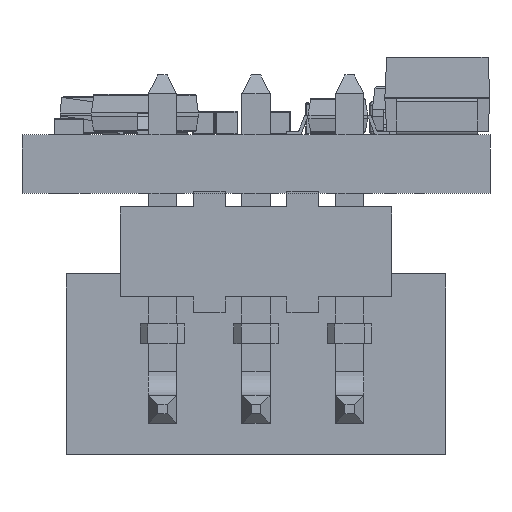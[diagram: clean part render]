
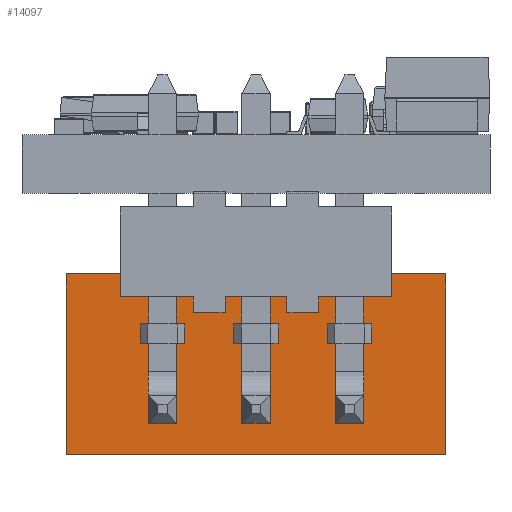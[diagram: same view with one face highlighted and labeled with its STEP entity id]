
A CAD part, front view. The second image highlights one B-rep face of the part: STEP entity #14097.
In plain terms, the highlighted planar face has unit normal (0, -1, 0) as drawn and (0, 0, -1) by its records, which use the part's own axes.
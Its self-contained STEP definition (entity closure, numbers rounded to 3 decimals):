
#13999 = VERTEX_POINT('',#14000);
#14000 = CARTESIAN_POINT('',(-2.608,-1.625,3.215));
#14008 = EDGE_CURVE('',#13999,#14009,#14011,.T.);
#14009 = VERTEX_POINT('',#14010);
#14010 = CARTESIAN_POINT('',(-2.608,3.275,3.215));
#14011 = LINE('',#14012,#14013);
#14012 = CARTESIAN_POINT('',(-2.608,-1.625,3.215));
#14013 = VECTOR('',#14014,1.);
#14014 = DIRECTION('',(0.,1.,0.));
#14047 = VERTEX_POINT('',#14048);
#14048 = CARTESIAN_POINT('',(7.688,-1.625,3.215));
#14056 = EDGE_CURVE('',#13999,#14047,#14057,.T.);
#14057 = LINE('',#14058,#14059);
#14058 = CARTESIAN_POINT('',(-2.608,-1.625,3.215));
#14059 = VECTOR('',#14060,1.);
#14060 = DIRECTION('',(1.,0.,0.));
#14097 = ADVANCED_FACE('',(#14098),#14116,.F.);
#14098 = FACE_BOUND('',#14099,.F.);
#14099 = EDGE_LOOP('',(#14100,#14101,#14102,#14110));
#14100 = ORIENTED_EDGE('',*,*,#14008,.F.);
#14101 = ORIENTED_EDGE('',*,*,#14056,.T.);
#14102 = ORIENTED_EDGE('',*,*,#14103,.T.);
#14103 = EDGE_CURVE('',#14047,#14104,#14106,.T.);
#14104 = VERTEX_POINT('',#14105);
#14105 = CARTESIAN_POINT('',(7.688,3.275,3.215));
#14106 = LINE('',#14107,#14108);
#14107 = CARTESIAN_POINT('',(7.688,-1.625,3.215));
#14108 = VECTOR('',#14109,1.);
#14109 = DIRECTION('',(0.,1.,0.));
#14110 = ORIENTED_EDGE('',*,*,#14111,.F.);
#14111 = EDGE_CURVE('',#14009,#14104,#14112,.T.);
#14112 = LINE('',#14113,#14114);
#14113 = CARTESIAN_POINT('',(-2.608,3.275,3.215));
#14114 = VECTOR('',#14115,1.);
#14115 = DIRECTION('',(1.,0.,0.));
#14116 = PLANE('',#14117);
#14117 = AXIS2_PLACEMENT_3D('',#14118,#14119,#14120);
#14118 = CARTESIAN_POINT('',(-2.608,-1.625,3.215));
#14119 = DIRECTION('',(0.,0.,1.));
#14120 = DIRECTION('',(1.,0.,0.));
